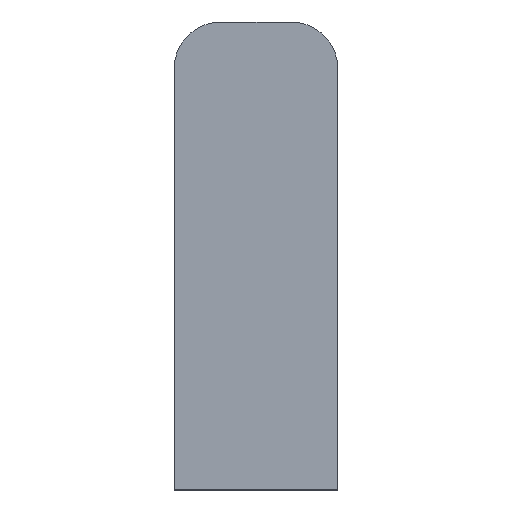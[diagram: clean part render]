
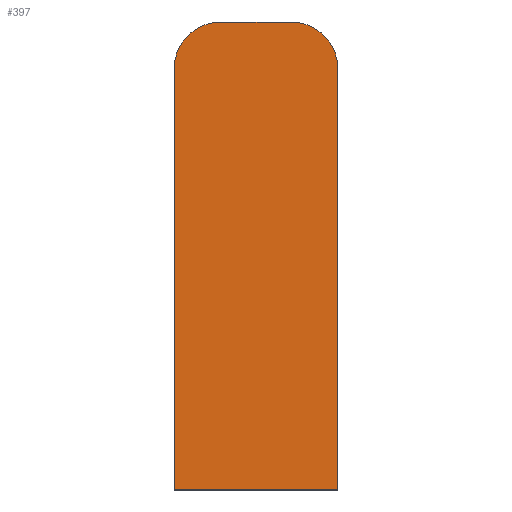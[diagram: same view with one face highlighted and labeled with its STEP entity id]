
A CAD part, front view. The second image highlights one B-rep face of the part: STEP entity #397.
In plain terms, the highlighted planar face has unit normal (0, -1, 0).
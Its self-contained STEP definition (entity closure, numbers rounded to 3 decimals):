
#1 = ORIENTED_EDGE ( 'NONE', *, *, #342, .T. ) ;
#5 = ORIENTED_EDGE ( 'NONE', *, *, #372, .T. ) ;
#23 = LINE ( 'NONE', #207, #28 ) ;
#26 = LINE ( 'NONE', #218, #149 ) ;
#28 = VECTOR ( 'NONE', #211, 1000. ) ;
#53 = ORIENTED_EDGE ( 'NONE', *, *, #348, .T. ) ;
#57 = ORIENTED_EDGE ( 'NONE', *, *, #357, .T. ) ;
#58 = ORIENTED_EDGE ( 'NONE', *, *, #371, .T. ) ;
#60 = EDGE_LOOP ( 'NONE', ( #53, #58, #57, #1, #113, #5 ) ) ;
#75 = CIRCLE ( 'NONE', #370, 3. ) ;
#113 = ORIENTED_EDGE ( 'NONE', *, *, #365, .T. ) ;
#123 = FACE_OUTER_BOUND ( 'NONE', #60, .T. ) ;
#125 = LINE ( 'NONE', #159, #126 ) ;
#126 = VECTOR ( 'NONE', #161, 1000. ) ;
#135 = CIRCLE ( 'NONE', #332, 3. ) ;
#144 = VECTOR ( 'NONE', #232, 1000. ) ;
#149 = VECTOR ( 'NONE', #208, 1000. ) ;
#150 = LINE ( 'NONE', #231, #144 ) ;
#159 = CARTESIAN_POINT ( 'NONE',  ( 2.25, 0., 13.5 ) ) ;
#161 = DIRECTION ( 'NONE',  ( -1., 0., 0. ) ) ;
#163 = VERTEX_POINT ( 'NONE', #395 ) ;
#192 = CARTESIAN_POINT ( 'NONE',  ( -2.25, 0., 10.5 ) ) ;
#193 = DIRECTION ( 'NONE',  ( 0., -1., 0. ) ) ;
#194 = DIRECTION ( 'NONE',  ( -1., 0., 0. ) ) ;
#207 = CARTESIAN_POINT ( 'NONE',  ( 5.25, 0., -16.5 ) ) ;
#208 = DIRECTION ( 'NONE',  ( 0., 0., -1. ) ) ;
#211 = DIRECTION ( 'NONE',  ( 0., 0., 1. ) ) ;
#217 = CARTESIAN_POINT ( 'NONE',  ( 2.25, 0., 10.5 ) ) ;
#218 = CARTESIAN_POINT ( 'NONE',  ( -5.25, 0., -16.5 ) ) ;
#229 = DIRECTION ( 'NONE',  ( 0., -1., 0. ) ) ;
#230 = DIRECTION ( 'NONE',  ( -1., 0., 0. ) ) ;
#231 = CARTESIAN_POINT ( 'NONE',  ( 5.25, 0., -16.5 ) ) ;
#232 = DIRECTION ( 'NONE',  ( 1., 0., 0. ) ) ;
#233 = CARTESIAN_POINT ( 'NONE',  ( -5.25, 0., 10.5 ) ) ;
#243 = CARTESIAN_POINT ( 'NONE',  ( -5.25, 0., -16.5 ) ) ;
#245 = CARTESIAN_POINT ( 'NONE',  ( 2.25, 0., 13.5 ) ) ;
#247 = CARTESIAN_POINT ( 'NONE',  ( 5.25, 0., -16.5 ) ) ;
#248 = CARTESIAN_POINT ( 'NONE',  ( 5.25, 0., 10.5 ) ) ;
#254 = CARTESIAN_POINT ( 'NONE',  ( 0., 0., -1.5 ) ) ;
#255 = PLANE ( 'NONE',  #349 ) ;
#257 = DIRECTION ( 'NONE',  ( 0., 1., 0. ) ) ;
#258 = DIRECTION ( 'NONE',  ( -1., 0., 0. ) ) ;
#332 = AXIS2_PLACEMENT_3D ( 'NONE', #217, #229, #230 ) ;
#342 = EDGE_CURVE ( 'NONE', #163, #381, #75, .T. ) ;
#348 = EDGE_CURVE ( 'NONE', #393, #394, #23, .T. ) ;
#349 = AXIS2_PLACEMENT_3D ( 'NONE', #254, #257, #258 ) ;
#357 = EDGE_CURVE ( 'NONE', #391, #163, #125, .T. ) ;
#365 = EDGE_CURVE ( 'NONE', #381, #389, #26, .T. ) ;
#370 = AXIS2_PLACEMENT_3D ( 'NONE', #192, #193, #194 ) ;
#371 = EDGE_CURVE ( 'NONE', #394, #391, #135, .T. ) ;
#372 = EDGE_CURVE ( 'NONE', #389, #393, #150, .T. ) ;
#381 = VERTEX_POINT ( 'NONE', #233 ) ;
#389 = VERTEX_POINT ( 'NONE', #243 ) ;
#391 = VERTEX_POINT ( 'NONE', #245 ) ;
#393 = VERTEX_POINT ( 'NONE', #247 ) ;
#394 = VERTEX_POINT ( 'NONE', #248 ) ;
#395 = CARTESIAN_POINT ( 'NONE',  ( -2.25, 0., 13.5 ) ) ;
#397 = ADVANCED_FACE ( 'NONE', ( #123 ), #255, .F. ) ;
